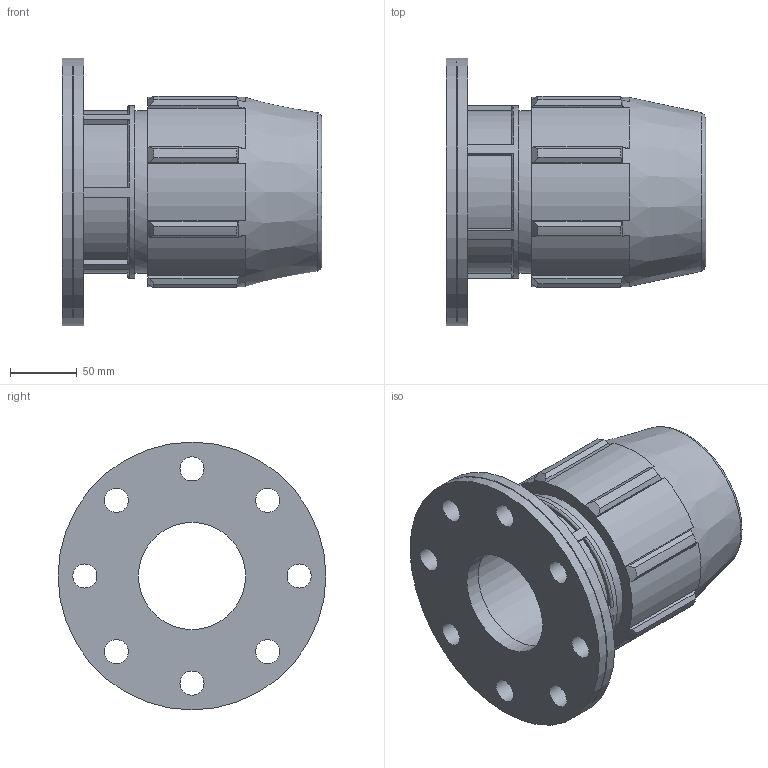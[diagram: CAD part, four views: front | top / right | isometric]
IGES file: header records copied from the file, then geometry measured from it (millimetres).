
Global section: file name: 872200090030_182200090030.ipt; native system: Autodesk Inventor 2015; preprocessor: unknown; author: KIM; date: 20170608.042634; units: millimetre
Bounding box: 194 x 200 x 200 mm (x, y, z)
Volume: 1706059.4 mm3; surface area: 215630.4 mm2
Topology: 1 solids, 1 shells, 126 faces, 359 edges, 241 vertices
Faces by surface type: plane 58, cylinder 26, revolution 22, cone 20
Full cylindrical faces by diameter (mm): 121.6 x1, 129.2 x1, 200 x2
